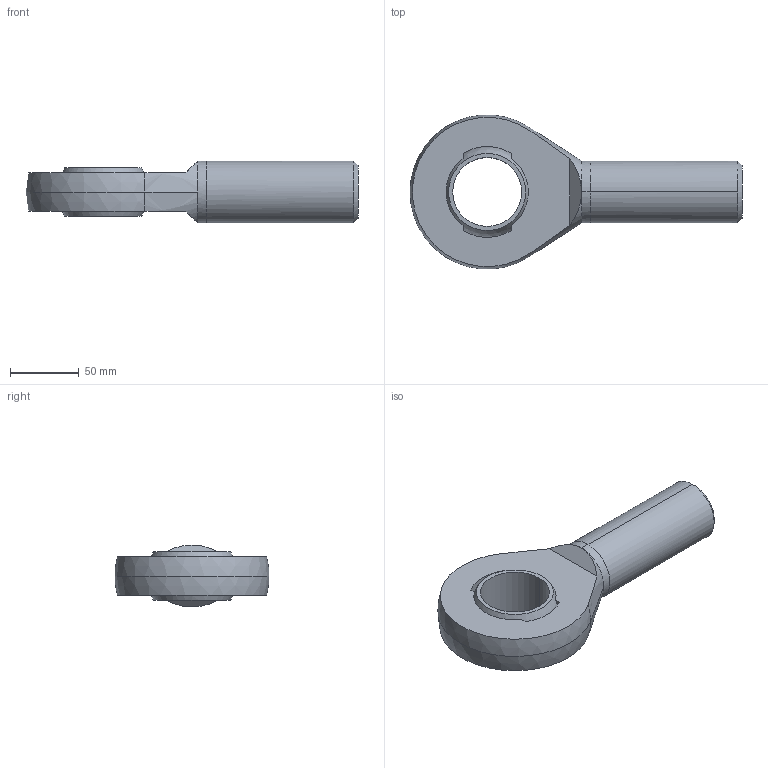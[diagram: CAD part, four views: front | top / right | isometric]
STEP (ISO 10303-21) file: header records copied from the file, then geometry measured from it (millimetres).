
FILE_DESCRIPTION (( 'STEP AP203' ), '1' );
FILE_NAME ('65860.W0051.step', '2014-02-06T11:45:34', ( 'User' ), ( '' ), 'SwSTEP 2.0', 'SolidWorks 2009', '' );
FILE_SCHEMA (( 'CONFIG_CONTROL_DESIGN' ));
Length unit declared in the file: millimetre
Products named in the file (3): Part2_65860.W0051; Part1_65860.W0051; 65860.W0051
Assembly tree (2 placements, depth 2):
  65860.W0051
    Part1_65860.W0051
    Part2_65860.W0051
Bounding box: 241 x 111.66 x 45 mm (x, y, z)
Volume: 431208.3 mm3; surface area: 61330.7 mm2
Topology: 2 solids, 2 shells, 35 faces, 82 edges, 51 vertices
Faces by surface type: plane 15, sphere 8, cylinder 8, cone 4
Entity records: 1397 total; most frequent: CARTESIAN_POINT 271, DIRECTION 196, ORIENTED_EDGE 160, AXIS2_PLACEMENT_3D 84, EDGE_CURVE 80, VERTEX_POINT 51, CIRCLE 44, EDGE_LOOP 41
